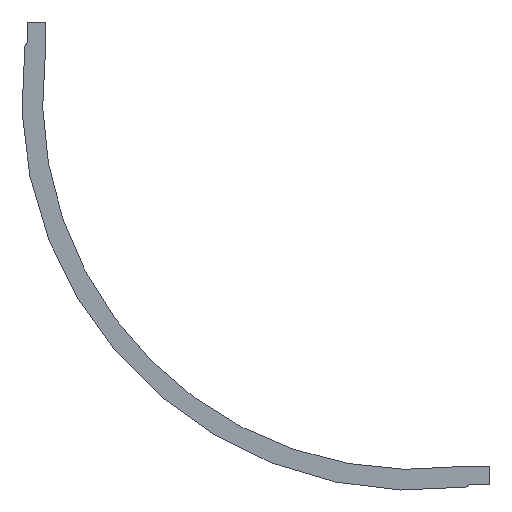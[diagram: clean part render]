
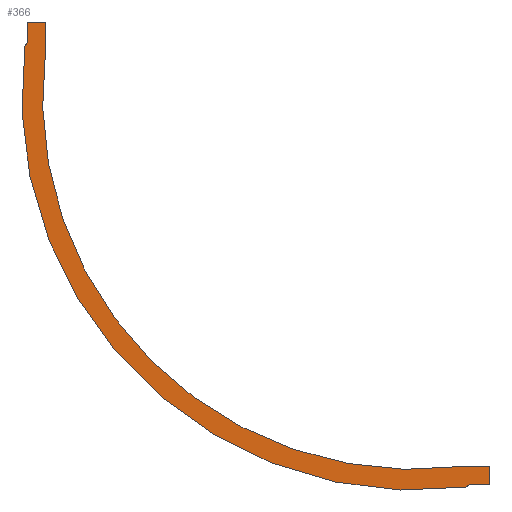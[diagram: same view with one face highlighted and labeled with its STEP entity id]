
A CAD part, left-side view. The second image highlights one B-rep face of the part: STEP entity #366.
In plain terms, the highlighted planar face has unit normal (-1, 0, 0).
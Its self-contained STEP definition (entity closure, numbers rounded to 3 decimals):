
#6 = CARTESIAN_POINT ( 'NONE',  ( -1510., 1.761, -26.809 ) ) ;
#12 = VECTOR ( 'NONE', #213, 1000. ) ;
#17 = EDGE_CURVE ( 'NONE', #92, #143, #488, .T. ) ;
#18 = DIRECTION ( 'NONE',  ( 0., 0., -1. ) ) ;
#19 = VERTEX_POINT ( 'NONE', #195 ) ;
#23 = CARTESIAN_POINT ( 'NONE',  ( -1510., 27.906, 0. ) ) ;
#24 = AXIS2_PLACEMENT_3D ( 'NONE', #222, #427, #476 ) ;
#27 = VERTEX_POINT ( 'NONE', #323 ) ;
#34 = DIRECTION ( 'NONE',  ( 1., 0., 0. ) ) ;
#43 = DIRECTION ( 'NONE',  ( 0., -1., 0. ) ) ;
#47 = ORIENTED_EDGE ( 'NONE', *, *, #161, .F. ) ;
#50 = CARTESIAN_POINT ( 'NONE',  ( -1510., 1.512, -27.872 ) ) ;
#57 = DIRECTION ( 'NONE',  ( 0., 0., -1. ) ) ;
#62 = VERTEX_POINT ( 'NONE', #364 ) ;
#63 = EDGE_CURVE ( 'NONE', #340, #362, #533, .T. ) ;
#80 = CARTESIAN_POINT ( 'NONE',  ( -1510., 4.554, -4.48 ) ) ;
#81 = VERTEX_POINT ( 'NONE', #372 ) ;
#91 = CARTESIAN_POINT ( 'NONE',  ( -1510., 1.16, -27.906 ) ) ;
#92 = VERTEX_POINT ( 'NONE', #538 ) ;
#94 = AXIS2_PLACEMENT_3D ( 'NONE', #196, #155, #444 ) ;
#106 = CARTESIAN_POINT ( 'NONE',  ( -1510., 27.967, -1.353 ) ) ;
#108 = ORIENTED_EDGE ( 'NONE', *, *, #63, .F. ) ;
#120 = CARTESIAN_POINT ( 'NONE',  ( -1510., 1.172, -28.203 ) ) ;
#122 = AXIS2_PLACEMENT_3D ( 'NONE', #50, #343, #219 ) ;
#123 = CARTESIAN_POINT ( 'NONE',  ( -1510., 20.429, -20.429 ) ) ;
#139 = CARTESIAN_POINT ( 'NONE',  ( -1510., 28.203, -1.172 ) ) ;
#141 = ORIENTED_EDGE ( 'NONE', *, *, #505, .F. ) ;
#143 = VERTEX_POINT ( 'NONE', #250 ) ;
#144 = EDGE_CURVE ( 'NONE', #521, #265, #145, .T. ) ;
#145 = CIRCLE ( 'NONE', #346, 22.503 ) ;
#155 = DIRECTION ( 'NONE',  ( -1., 0., 0. ) ) ;
#157 = CARTESIAN_POINT ( 'NONE',  ( -1510., 0., -27.906 ) ) ;
#161 = EDGE_CURVE ( 'NONE', #362, #387, #321, .T. ) ;
#168 = CARTESIAN_POINT ( 'NONE',  ( -1510., 27.872, -1.512 ) ) ;
#173 = CARTESIAN_POINT ( 'NONE',  ( -1510., 0., -27.906 ) ) ;
#175 = DIRECTION ( 'NONE',  ( -1., 0., 0. ) ) ;
#180 = LINE ( 'NONE', #352, #203 ) ;
#195 = CARTESIAN_POINT ( 'NONE',  ( -1510., 28.049, -1.459 ) ) ;
#196 = CARTESIAN_POINT ( 'NONE',  ( -1510., 4.48, -4.554 ) ) ;
#200 = EDGE_CURVE ( 'NONE', #19, #426, #285, .T. ) ;
#203 = VECTOR ( 'NONE', #18, 1000. ) ;
#204 = DIRECTION ( 'NONE',  ( 0., 0., -1. ) ) ;
#207 = DIRECTION ( 'NONE',  ( 1., 0., 0. ) ) ;
#213 = DIRECTION ( 'NONE',  ( 0., -1., 0. ) ) ;
#219 = DIRECTION ( 'NONE',  ( 0., 0., -1. ) ) ;
#220 = ORIENTED_EDGE ( 'NONE', *, *, #17, .F. ) ;
#222 = CARTESIAN_POINT ( 'NONE',  ( -1510., 4.554, -4.48 ) ) ;
#224 = EDGE_CURVE ( 'NONE', #265, #324, #334, .T. ) ;
#227 = ORIENTED_EDGE ( 'NONE', *, *, #547, .F. ) ;
#237 = CIRCLE ( 'NONE', #542, 23.778 ) ;
#240 = ORIENTED_EDGE ( 'NONE', *, *, #408, .F. ) ;
#250 = CARTESIAN_POINT ( 'NONE',  ( -1510., 27.906, 0. ) ) ;
#252 = DIRECTION ( 'NONE',  ( 0., 0., -1. ) ) ;
#265 = VERTEX_POINT ( 'NONE', #6 ) ;
#267 = ORIENTED_EDGE ( 'NONE', *, *, #200, .F. ) ;
#268 = PLANE ( 'NONE',  #24 ) ;
#269 = ORIENTED_EDGE ( 'NONE', *, *, #316, .F. ) ;
#278 = ORIENTED_EDGE ( 'NONE', *, *, #224, .F. ) ;
#279 = AXIS2_PLACEMENT_3D ( 'NONE', #168, #207, #545 ) ;
#280 = CIRCLE ( 'NONE', #94, 22.503 ) ;
#285 = CIRCLE ( 'NONE', #279, 0.185 ) ;
#292 = CIRCLE ( 'NONE', #122, 0.185 ) ;
#295 = VECTOR ( 'NONE', #43, 1000. ) ;
#302 = FACE_OUTER_BOUND ( 'NONE', #439, .T. ) ;
#313 = EDGE_CURVE ( 'NONE', #387, #27, #292, .T. ) ;
#316 = EDGE_CURVE ( 'NONE', #426, #92, #515, .T. ) ;
#321 = CIRCLE ( 'NONE', #446, 0.298 ) ;
#323 = CARTESIAN_POINT ( 'NONE',  ( -1510., 1.459, -28.049 ) ) ;
#324 = VERTEX_POINT ( 'NONE', #470 ) ;
#327 = DIRECTION ( 'NONE',  ( 0., 0., -1. ) ) ;
#334 = LINE ( 'NONE', #419, #12 ) ;
#340 = VERTEX_POINT ( 'NONE', #173 ) ;
#343 = DIRECTION ( 'NONE',  ( 1., 0., 0. ) ) ;
#344 = ORIENTED_EDGE ( 'NONE', *, *, #144, .F. ) ;
#346 = AXIS2_PLACEMENT_3D ( 'NONE', #80, #498, #327 ) ;
#348 = AXIS2_PLACEMENT_3D ( 'NONE', #139, #175, #57 ) ;
#352 = CARTESIAN_POINT ( 'NONE',  ( -1510., 26.809, -1.761 ) ) ;
#361 = LINE ( 'NONE', #528, #295 ) ;
#362 = VERTEX_POINT ( 'NONE', #91 ) ;
#364 = CARTESIAN_POINT ( 'NONE',  ( -1510., 26.809, 0. ) ) ;
#365 = VECTOR ( 'NONE', #410, 1000. ) ;
#366 = ADVANCED_FACE ( 'NONE', ( #302 ), #268, .F. ) ;
#372 = CARTESIAN_POINT ( 'NONE',  ( -1510., 26.809, -1.761 ) ) ;
#378 = ORIENTED_EDGE ( 'NONE', *, *, #539, .F. ) ;
#387 = VERTEX_POINT ( 'NONE', #473 ) ;
#388 = LINE ( 'NONE', #462, #526 ) ;
#396 = ORIENTED_EDGE ( 'NONE', *, *, #313, .F. ) ;
#408 = EDGE_CURVE ( 'NONE', #62, #81, #180, .T. ) ;
#410 = DIRECTION ( 'NONE',  ( 0., 0., 1. ) ) ;
#419 = CARTESIAN_POINT ( 'NONE',  ( -1510., 1.761, -26.809 ) ) ;
#426 = VERTEX_POINT ( 'NONE', #106 ) ;
#427 = DIRECTION ( 'NONE',  ( 1., 0., 0. ) ) ;
#439 = EDGE_LOOP ( 'NONE', ( #344, #506, #240, #141, #220, #269, #267, #227, #396, #47, #108, #378, #278 ) ) ;
#443 = EDGE_CURVE ( 'NONE', #81, #521, #280, .T. ) ;
#444 = DIRECTION ( 'NONE',  ( 0., 0., -1. ) ) ;
#446 = AXIS2_PLACEMENT_3D ( 'NONE', #120, #503, #252 ) ;
#452 = DIRECTION ( 'NONE',  ( 0., 0., -1. ) ) ;
#460 = VECTOR ( 'NONE', #486, 1000. ) ;
#462 = CARTESIAN_POINT ( 'NONE',  ( -1510., 0., -26.809 ) ) ;
#470 = CARTESIAN_POINT ( 'NONE',  ( -1510., 0., -26.809 ) ) ;
#473 = CARTESIAN_POINT ( 'NONE',  ( -1510., 1.353, -27.967 ) ) ;
#476 = DIRECTION ( 'NONE',  ( 0., 0., -1. ) ) ;
#486 = DIRECTION ( 'NONE',  ( 0., 1., 0. ) ) ;
#488 = LINE ( 'NONE', #23, #365 ) ;
#498 = DIRECTION ( 'NONE',  ( -1., 0., 0. ) ) ;
#503 = DIRECTION ( 'NONE',  ( -1., 0., 0. ) ) ;
#505 = EDGE_CURVE ( 'NONE', #143, #62, #361, .T. ) ;
#506 = ORIENTED_EDGE ( 'NONE', *, *, #443, .F. ) ;
#507 = CARTESIAN_POINT ( 'NONE',  ( -1510., 4.462, -4.462 ) ) ;
#515 = CIRCLE ( 'NONE', #348, 0.298 ) ;
#521 = VERTEX_POINT ( 'NONE', #123 ) ;
#526 = VECTOR ( 'NONE', #204, 1000. ) ;
#528 = CARTESIAN_POINT ( 'NONE',  ( -1510., 26.809, 0. ) ) ;
#533 = LINE ( 'NONE', #157, #460 ) ;
#538 = CARTESIAN_POINT ( 'NONE',  ( -1510., 27.906, -1.16 ) ) ;
#539 = EDGE_CURVE ( 'NONE', #324, #340, #388, .T. ) ;
#542 = AXIS2_PLACEMENT_3D ( 'NONE', #507, #34, #452 ) ;
#545 = DIRECTION ( 'NONE',  ( 0., 0., -1. ) ) ;
#547 = EDGE_CURVE ( 'NONE', #27, #19, #237, .T. ) ;
